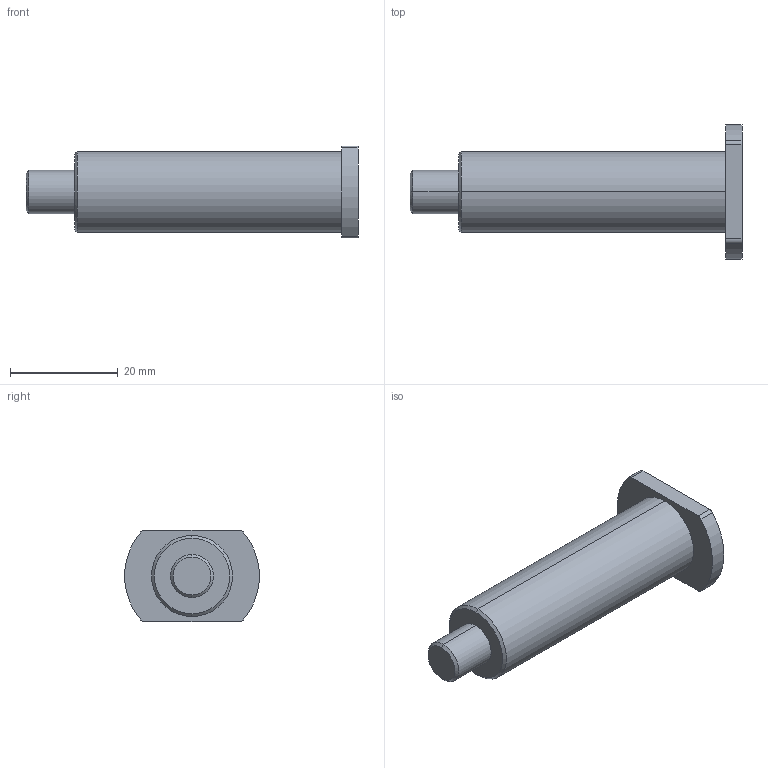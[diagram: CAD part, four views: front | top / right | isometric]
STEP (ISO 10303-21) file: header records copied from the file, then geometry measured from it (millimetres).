
FILE_DESCRIPTION((''),'2;1');
FILE_NAME('KD-D-504X_ANKLESHOULDERBOLT','2025-07-12T16:42:28',('Administrator'),(''),'CREO PARAMETRIC BY PTC INC, 2022073','CREO PARAMETRIC BY PTC INC, 2022073','');
FILE_SCHEMA(('CONFIG_CONTROL_DESIGN'));
Length unit declared in the file: millimetre
Products named in the file (1): KD-D-504X_ANKLESHOULDERBOLT
Bounding box: 61.5 x 24.92 x 17 mm (x, y, z)
Volume: 10359.1 mm3; surface area: 3537.3 mm2
Topology: 1 solids, 1 shells, 20 faces, 44 edges, 28 vertices
Faces by surface type: cylinder 10, plane 6, cone 4
Entity records: 598 total; most frequent: DIRECTION 108, CARTESIAN_POINT 92, ORIENTED_EDGE 88, AXIS2_PLACEMENT_3D 44, EDGE_CURVE 44, VERTEX_POINT 28, CIRCLE 24, EDGE_LOOP 22
